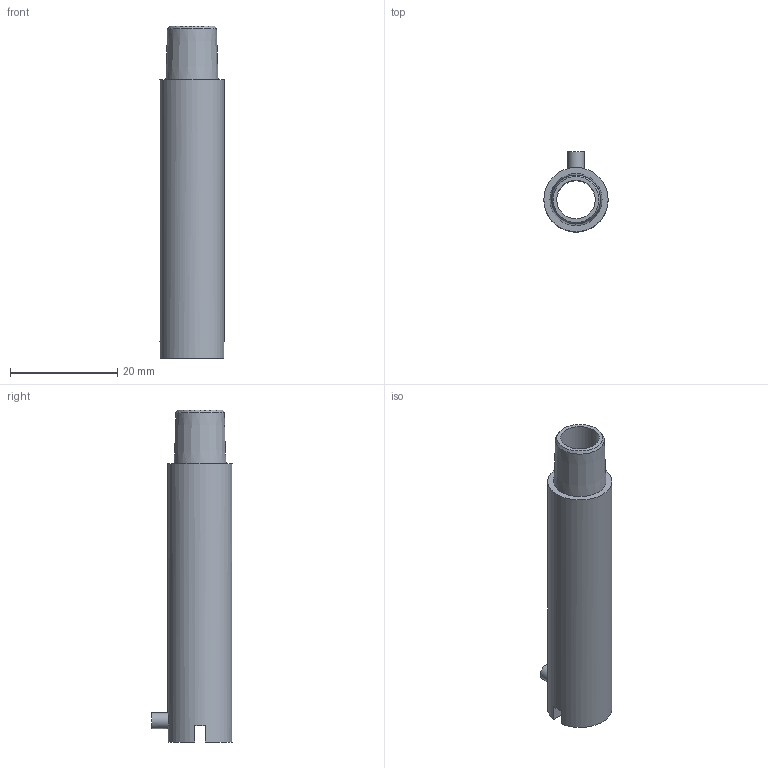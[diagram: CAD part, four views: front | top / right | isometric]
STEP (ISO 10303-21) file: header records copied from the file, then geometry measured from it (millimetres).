
FILE_DESCRIPTION (( 'STEP AP203' ), '1' );
FILE_NAME ('YIT200-5(0).STEP', '2025-08-01T06:45:29', ( '' ), ( '' ), 'SwSTEP 2.0', 'SolidWorks 2024', '' );
FILE_SCHEMA (( 'CONFIG_CONTROL_DESIGN' ));
Length unit declared in the file: millimetre
Products named in the file (1): YIT200-5(0)
Bounding box: 12 x 15 x 62 mm (x, y, z)
Volume: 4044.8 mm3; surface area: 3823.1 mm2
Topology: 1 solids, 1 shells, 16 faces, 39 edges, 26 vertices
Faces by surface type: plane 11, cylinder 3, cone 2
Full cylindrical faces by diameter (mm): 3 x1, 7.2 x1, 12 x1
Entity records: 555 total; most frequent: CARTESIAN_POINT 122, DIRECTION 78, ORIENTED_EDGE 62, EDGE_CURVE 31, AXIS2_PLACEMENT_3D 31, EDGE_LOOP 24, VERTEX_POINT 23, FACE_OUTER_BOUND 19
